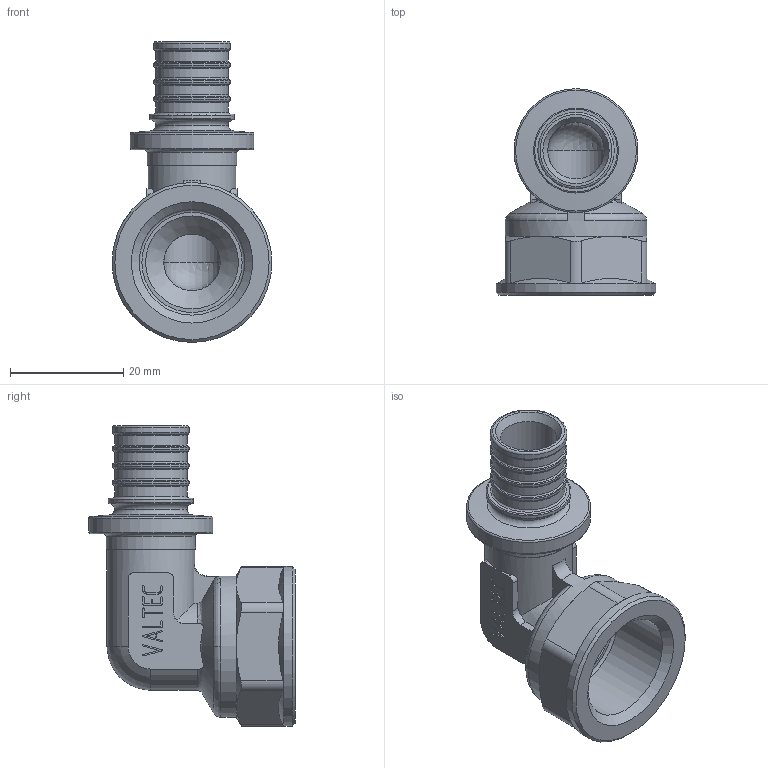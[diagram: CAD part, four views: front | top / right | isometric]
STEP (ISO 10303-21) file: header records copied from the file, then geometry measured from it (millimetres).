
FILE_DESCRIPTION(('STEP AP203'), '1');
FILE_NAME('ÂÐ.752213.006 - VTm.452.G.001604 - Ôèò. àêñ. óãîë', '', ('UNSPECIFIED'), ('UNSPECIFIED'), 'C3D Converter', 'C3D Toolkit', '');
FILE_SCHEMA(('CONFIG_CONTROL_DESIGN'));
Length unit declared in the file: millimetre
Products named in the file (1): ВР.752213.006
Bounding box: 28.25 x 36.45 x 53.12 mm (x, y, z)
Volume: 9517.4 mm3; surface area: 7271.7 mm2
Topology: 1 solids, 1 shells, 350 faces, 944 edges, 611 vertices
Faces by surface type: extrusion 142, plane 121, cylinder 38, torus 33, cone 14, sphere 2
Full cylindrical faces by diameter (mm): 10 x2, 12.8 x4, 13.5 x4, 15 x1, 15.5 x1, 15.8 x1, 18.632 x1, 21.9 x1, 25 x1, 28.25 x1
Entity records: 15096 total; most frequent: CARTESIAN_POINT 4289, ORIENTED_EDGE 1788, DIRECTION 1208, EDGE_CURVE 894, VERTEX_POINT 611, VECTOR 582, B_SPLINE_CURVE_WITH_KNOTS 489, LINE 440
